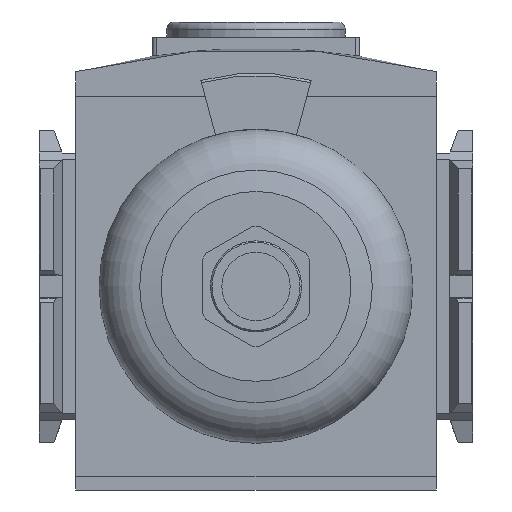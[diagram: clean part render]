
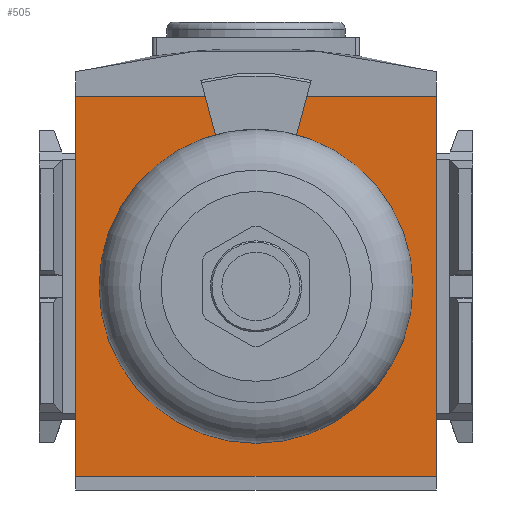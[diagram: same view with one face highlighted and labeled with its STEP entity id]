
A CAD part, front view. The second image highlights one B-rep face of the part: STEP entity #505.
In plain terms, the highlighted planar face has unit normal (0, -1, 0) as drawn and (0, 1, 0) by its records, which use the part's own axes.
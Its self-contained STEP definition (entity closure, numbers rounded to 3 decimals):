
#505 = ADVANCED_FACE( '', ( #1166, #1167 ), #1168, .T. );
#1166 = FACE_BOUND( '', #1990, .T. );
#1167 = FACE_OUTER_BOUND( '', #1991, .T. );
#1168 = PLANE( '', #1992 );
#1990 = EDGE_LOOP( '', ( #3449 ) );
#1991 = EDGE_LOOP( '', ( #3450, #3451, #3452, #3453 ) );
#1992 = AXIS2_PLACEMENT_3D( '', #3454, #3455, #3456 );
#3449 = ORIENTED_EDGE( '', *, *, #5103, .T. );
#3450 = ORIENTED_EDGE( '', *, *, #5358, .T. );
#3451 = ORIENTED_EDGE( '', *, *, #5245, .T. );
#3452 = ORIENTED_EDGE( '', *, *, #5359, .T. );
#3453 = ORIENTED_EDGE( '', *, *, #4925, .T. );
#3454 = CARTESIAN_POINT( '', ( 0., 32., 0. ) );
#3455 = DIRECTION( '', ( 0., 1., 0. ) );
#3456 = DIRECTION( '', ( 0., 0., 1. ) );
#4925 = EDGE_CURVE( '', #5939, #5937, #5940, .T. );
#5103 = EDGE_CURVE( '', #6242, #6242, #6243, .T. );
#5245 = EDGE_CURVE( '', #6469, #6467, #6470, .T. );
#5358 = EDGE_CURVE( '', #5937, #6469, #6633, .T. );
#5359 = EDGE_CURVE( '', #6467, #5939, #6634, .T. );
#5937 = VERTEX_POINT( '', #7341 );
#5939 = VERTEX_POINT( '', #7344 );
#5940 = LINE( '', #7345, #7346 );
#6242 = VERTEX_POINT( '', #7759 );
#6243 = CIRCLE( '', #7760, 20.661 );
#6467 = VERTEX_POINT( '', #8080 );
#6469 = VERTEX_POINT( '', #8083 );
#6470 = LINE( '', #8084, #8085 );
#6633 = LINE( '', #8316, #8317 );
#6634 = LINE( '', #8318, #8319 );
#7341 = CARTESIAN_POINT( '', ( -23.75, 32., -25. ) );
#7344 = CARTESIAN_POINT( '', ( 23.75, 32., -25. ) );
#7345 = CARTESIAN_POINT( '', ( 23.75, 32., -25. ) );
#7346 = VECTOR( '', #9142, 1000. );
#7759 = CARTESIAN_POINT( '', ( 0., 32., -20.661 ) );
#7760 = AXIS2_PLACEMENT_3D( '', #9347, #9348, #9349 );
#8080 = CARTESIAN_POINT( '', ( 23.75, 32., 25. ) );
#8083 = CARTESIAN_POINT( '', ( -23.75, 32., 25. ) );
#8084 = CARTESIAN_POINT( '', ( -23.75, 32., 25. ) );
#8085 = VECTOR( '', #9495, 1000. );
#8316 = CARTESIAN_POINT( '', ( -23.75, 32., -25. ) );
#8317 = VECTOR( '', #9618, 1000. );
#8318 = CARTESIAN_POINT( '', ( 23.75, 32., 25. ) );
#8319 = VECTOR( '', #9619, 1000. );
#9142 = DIRECTION( '', ( -1., 0., 0. ) );
#9347 = CARTESIAN_POINT( '', ( 0., 32., 0. ) );
#9348 = DIRECTION( '', ( 0., -1., 0. ) );
#9349 = DIRECTION( '', ( 0., 0., -1. ) );
#9495 = DIRECTION( '', ( 1., 0., 0. ) );
#9618 = DIRECTION( '', ( 0., 0., 1. ) );
#9619 = DIRECTION( '', ( 0., 0., -1. ) );
